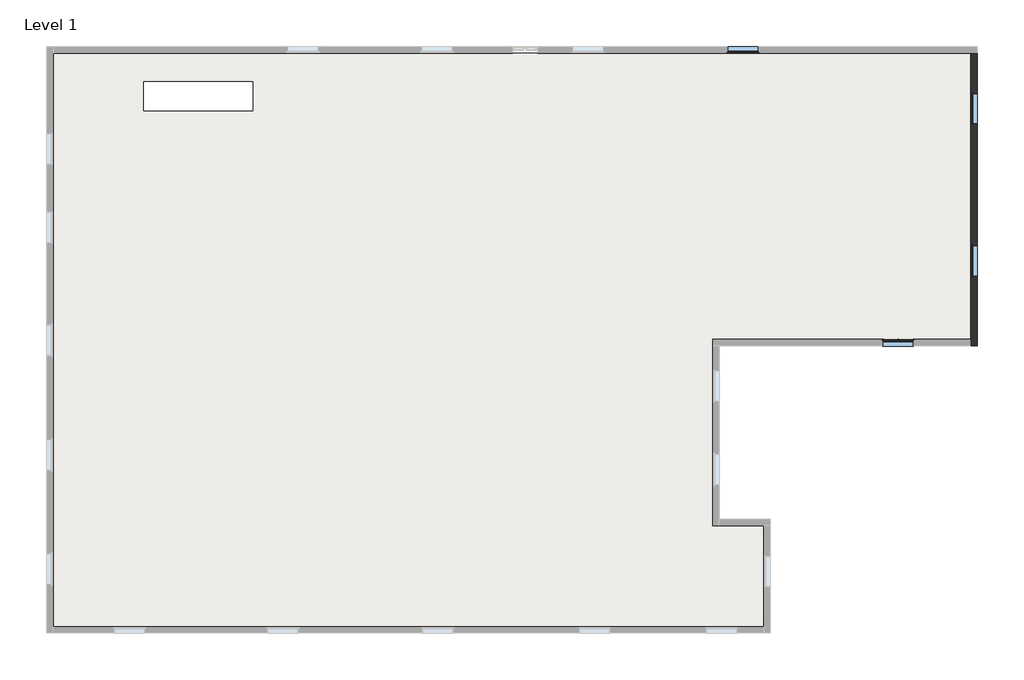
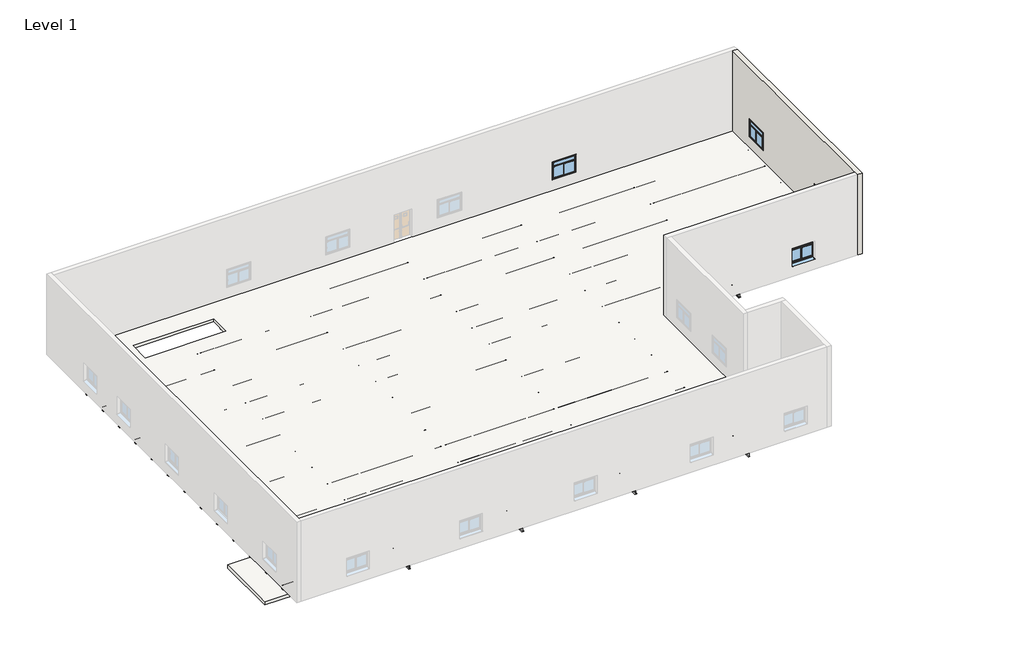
# One storey, part 2 of 2: 90 beams, 4 windows, 2 slabs, 1 wall.
"""IFC4 building model written with IfcOpenShell, lengths in millimetres."""

from ifc_helpers import new_model, si_unit, frame, origin, place, context, project, spatial, polyline, outline, extrude, faceted_brep, transform, mapped, element, save
from components import cb530x32_9_39_fc9b2e57, cb530x32_9_39_b0b7b731, cb530x32_9_39_a7f7f1eb, cb530x32_9_39_18e86786, cb530x32_9_39_dbc4be5c, ipe_ipe300_697b3008, ipe_ipe300_0cf405c3, ipe_ipe300_009aff86, ipe_ipe300_46390dff, ipe_ipe300_53a4a3a1, ipe_ipe300_f8e40e8f, ipe_ipe300_3a199f7d, ipe_ipe300_1a8c8bf1, ipe_ipe300_a2a2df0d, ipe_ipe300_eefa3f7d, ipe_ipe300_38b31347, window_1_60m_x_1_30m_2_3fc02772

model = new_model("IFC4")

# Units and contexts
model_context = context("Model", 3, world=origin())
ifc_project = project(units=[si_unit("LENGTHUNIT", "METRE", prefix="MILLI")], contexts=[model_context])

# Site, building, storey
site = spatial("IfcSite", under=ifc_project)
building = spatial("IfcBuilding", under=site)
storey = spatial("IfcBuildingStorey", under=building, Name="Level 1", Elevation=5500.0)

# Beams
placement = place(None, origin())
cb530x32_9_39_shape = cb530x32_9_39_fc9b2e57(model_context)
element("IfcBeam", 1, ObjectType="Poutre alvéolaire : CB530X32.9/39", at=placement, inside=storey, context=model_context, shape_type="MappedRepresentation", body=[
    mapped(cb530x32_9_39_shape, transform((8000.0, 5067.5, 5025.5), x_axis=(0.0, 1.0, 0.0), y_axis=(-1.0, 0.0, 0.0), z_axis=(0.0, 0.0, 1.0))),
])
element("IfcBeam", 2, ObjectType="Poutre alvéolaire : CB530X32.9/39", at=placement, inside=storey, context=model_context, shape_type="MappedRepresentation", body=[
    mapped(cb530x32_9_39_shape, transform((16000.0, 5067.5, 5025.5), x_axis=(0.0, 1.0, 0.0), y_axis=(-1.0, 0.0, 0.0), z_axis=(0.0, 0.0, 1.0))),
])
element("IfcBeam", 3, ObjectType="Poutre alvéolaire : CB530X32.9/39", at=placement, inside=storey, context=model_context, shape_type="MappedRepresentation", body=[
    mapped(cb530x32_9_39_shape, transform((24000.0, 5067.5, 5025.5), x_axis=(0.0, 1.0, 0.0), y_axis=(-1.0, 0.0, 0.0), z_axis=(0.0, 0.0, 1.0))),
])
element("IfcBeam", 4, ObjectType="Poutre alvéolaire : CB530X32.9/39", at=placement, inside=storey, context=model_context, shape_type="MappedRepresentation", body=[
    mapped(cb530x32_9_39_shape, transform((32000.0, 5067.5, 5025.5), x_axis=(0.0, 1.0, 0.0), y_axis=(-1.0, 0.0, 0.0), z_axis=(0.0, 0.0, 1.0))),
])
cb530x32_9_39_2_shape = cb530x32_9_39_b0b7b731(model_context)
element("IfcBeam", 5, ObjectType="Poutre alvéolaire : CB530X32.9/39", at=placement, inside=storey, context=model_context, shape_type="MappedRepresentation", body=[
    mapped(cb530x32_9_39_2_shape, transform((8000.0, 15000.0, 5025.5), x_axis=(0.0, 1.0, 0.0), y_axis=(-1.0, 0.0, 0.0), z_axis=(0.0, 0.0, 1.0))),
])
element("IfcBeam", 6, ObjectType="Poutre alvéolaire : CB530X32.9/39", at=placement, inside=storey, context=model_context, shape_type="MappedRepresentation", body=[
    mapped(cb530x32_9_39_2_shape, transform((16000.0, 15000.0, 5025.5), x_axis=(0.0, 1.0, 0.0), y_axis=(-1.0, 0.0, 0.0), z_axis=(0.0, 0.0, 1.0))),
])
element("IfcBeam", 7, ObjectType="Poutre alvéolaire : CB530X32.9/39", at=placement, inside=storey, context=model_context, shape_type="MappedRepresentation", body=[
    mapped(cb530x32_9_39_2_shape, transform((24000.0, 15000.0, 5025.5), x_axis=(0.0, 1.0, 0.0), y_axis=(-1.0, 0.0, 0.0), z_axis=(0.0, 0.0, 1.0))),
])
element("IfcBeam", 8, ObjectType="Poutre alvéolaire : CB530X32.9/39", at=placement, inside=storey, context=model_context, shape_type="MappedRepresentation", body=[
    mapped(cb530x32_9_39_2_shape, transform((32000.0, 15000.0, 5025.5), x_axis=(0.0, 1.0, 0.0), y_axis=(-1.0, 0.0, 0.0), z_axis=(0.0, 0.0, 1.0))),
])
cb530x32_9_39_3_shape = cb530x32_9_39_a7f7f1eb(model_context)
element("IfcBeam", 9, ObjectType="Poutre alvéolaire : CB530X32.9/39", at=placement, inside=storey, context=model_context, shape_type="MappedRepresentation", body=[
    mapped(cb530x32_9_39_3_shape, transform((8000.0, 23320.5127887, 5025.5), x_axis=(0.0, 1.0, 0.0), y_axis=(-1.0, 0.0, 0.0), z_axis=(0.0, 0.0, 1.0))),
])
cb530x32_9_39_4_shape = cb530x32_9_39_18e86786(model_context)
element("IfcBeam", 10, ObjectType="Poutre alvéolaire : CB530X32.9/39", at=placement, inside=storey, context=model_context, shape_type="MappedRepresentation", body=[
    mapped(cb530x32_9_39_4_shape, transform((16000.0, 24995.0544554, 5025.5), x_axis=(0.0, 1.0, 0.0), y_axis=(-1.0, 0.0, 0.0), z_axis=(0.0, 0.0, 1.0))),
])
element("IfcBeam", 11, ObjectType="Poutre alvéolaire : CB530X32.9/39", at=placement, inside=storey, context=model_context, shape_type="MappedRepresentation", body=[
    mapped(cb530x32_9_39_4_shape, transform((24000.0, 24995.0544554, 5025.5), x_axis=(0.0, 1.0, 0.0), y_axis=(-1.0, 0.0, 0.0), z_axis=(0.0, 0.0, 1.0))),
])
element("IfcBeam", 12, ObjectType="Poutre alvéolaire : CB530X32.9/39", at=placement, inside=storey, context=model_context, shape_type="MappedRepresentation", body=[
    mapped(cb530x32_9_39_4_shape, transform((32000.0, 24995.0544554, 5025.5), x_axis=(0.0, 1.0, 0.0), y_axis=(-1.0, 0.0, 0.0), z_axis=(0.0, 0.0, 1.0))),
])
element("IfcBeam", 13, ObjectType="Poutre alvéolaire : CB530X32.9/39", at=placement, inside=storey, context=model_context, shape_type="MappedRepresentation", body=[
    mapped(cb530x32_9_39_4_shape, transform((40000.0, 24995.0544554, 5025.5), x_axis=(0.0, 1.0, 0.0), y_axis=(-1.0, 0.0, 0.0), z_axis=(0.0, 0.0, 1.0))),
])
cb530x32_9_39_5_shape = cb530x32_9_39_dbc4be5c(model_context)
element("IfcBeam", 14, ObjectType="Poutre alvéolaire : CB530X32.9/39", at=placement, inside=storey, context=model_context, shape_type="MappedRepresentation", body=[
    mapped(cb530x32_9_39_5_shape, transform((40000.0, 17505.0, 5025.5), x_axis=(0.0, 1.0, 0.0), y_axis=(-1.0, 0.0, 0.0), z_axis=(0.0, 0.0, 1.0))),
])
ipe_ipe300_shape = ipe_ipe300_697b3008(model_context)
element("IfcBeam", 15, ObjectType="IPE : IPE300", at=placement, inside=storey, context=model_context, shape_type="MappedRepresentation", body=[
    mapped(ipe_ipe300_shape, transform((4005.0, 10000.0, 5140.0), x_axis=(-1.0, 0.0, 0.0), y_axis=(0.0, -1.0, 0.0), z_axis=(0.0, 0.0, 1.0))),
])
element("IfcBeam", 16, ObjectType="IPE : IPE300", at=placement, inside=storey, context=model_context, shape_type="MappedRepresentation", body=[
    mapped(ipe_ipe300_shape, transform((4005.0, 20000.0, 5140.0), x_axis=(-1.0, 0.0, 0.0), y_axis=(0.0, -1.0, 0.0), z_axis=(0.0, 0.0, 1.0))),
])
ipe_ipe300_2_shape = ipe_ipe300_0cf405c3(model_context)
element("IfcBeam", 17, ObjectType="IPE : IPE300", at=placement, inside=storey, context=model_context, shape_type="MappedRepresentation", body=[
    mapped(ipe_ipe300_2_shape, transform((4005.0, 12000.0, 5140.0), x_axis=(-1.0, 0.0, 0.0), y_axis=(0.0, -1.0, 0.0), z_axis=(0.0, 0.0, 1.0))),
])
element("IfcBeam", 18, ObjectType="IPE : IPE300", at=placement, inside=storey, context=model_context, shape_type="MappedRepresentation", body=[
    mapped(ipe_ipe300_2_shape, transform((4005.0, 14000.0, 5140.0), x_axis=(-1.0, 0.0, 0.0), y_axis=(0.0, -1.0, 0.0), z_axis=(0.0, 0.0, 1.0))),
])
element("IfcBeam", 19, ObjectType="IPE : IPE300", at=placement, inside=storey, context=model_context, shape_type="MappedRepresentation", body=[
    mapped(ipe_ipe300_2_shape, transform((4005.0, 16000.0, 5140.0), x_axis=(-1.0, 0.0, 0.0), y_axis=(0.0, -1.0, 0.0), z_axis=(0.0, 0.0, 1.0))),
])
element("IfcBeam", 20, ObjectType="IPE : IPE300", at=placement, inside=storey, context=model_context, shape_type="MappedRepresentation", body=[
    mapped(ipe_ipe300_2_shape, transform((4005.0, 18000.0, 5140.0), x_axis=(-1.0, 0.0, 0.0), y_axis=(0.0, -1.0, 0.0), z_axis=(0.0, 0.0, 1.0))),
])
element("IfcBeam", 21, ObjectType="IPE : IPE300", at=placement, inside=storey, context=model_context, shape_type="MappedRepresentation", body=[
    mapped(ipe_ipe300_2_shape, transform((4005.0, 22000.0, 5140.0), x_axis=(-1.0, 0.0, 0.0), y_axis=(0.0, -1.0, 0.0), z_axis=(0.0, 0.0, 1.0))),
])
element("IfcBeam", 22, ObjectType="IPE : IPE300", at=placement, inside=storey, context=model_context, shape_type="MappedRepresentation", body=[
    mapped(ipe_ipe300_2_shape, transform((4005.0, 24000.0, 5140.0), x_axis=(-1.0, 0.0, 0.0), y_axis=(0.0, -1.0, 0.0), z_axis=(0.0, 0.0, 1.0))),
])
element("IfcBeam", 23, ObjectType="IPE : IPE300", at=placement, inside=storey, context=model_context, shape_type="MappedRepresentation", body=[
    mapped(ipe_ipe300_2_shape, transform((4005.0, 26000.0, 5140.0), x_axis=(-1.0, 0.0, 0.0), y_axis=(0.0, -1.0, 0.0), z_axis=(0.0, 0.0, 1.0))),
])
element("IfcBeam", 24, ObjectType="IPE : IPE300", at=placement, inside=storey, context=model_context, shape_type="MappedRepresentation", body=[
    mapped(ipe_ipe300_2_shape, transform((4005.0, 8000.0, 5140.0), x_axis=(-1.0, 0.0, 0.0), y_axis=(0.0, -1.0, 0.0), z_axis=(0.0, 0.0, 1.0))),
])
element("IfcBeam", 25, ObjectType="IPE : IPE300", at=placement, inside=storey, context=model_context, shape_type="MappedRepresentation", body=[
    mapped(ipe_ipe300_2_shape, transform((4005.0, 6000.0, 5140.0), x_axis=(-1.0, 0.0, 0.0), y_axis=(0.0, -1.0, 0.0), z_axis=(0.0, 0.0, 1.0))),
])
element("IfcBeam", 26, ObjectType="IPE : IPE300", at=placement, inside=storey, context=model_context, shape_type="MappedRepresentation", body=[
    mapped(ipe_ipe300_2_shape, transform((4005.0, 4000.0, 5140.0), x_axis=(-1.0, 0.0, 0.0), y_axis=(0.0, -1.0, 0.0), z_axis=(0.0, 0.0, 1.0))),
])
element("IfcBeam", 27, ObjectType="IPE : IPE300", at=placement, inside=storey, context=model_context, shape_type="MappedRepresentation", body=[
    mapped(ipe_ipe300_2_shape, transform((4005.0, 2000.0, 5140.0), x_axis=(-1.0, 0.0, 0.0), y_axis=(0.0, -1.0, 0.0), z_axis=(0.0, 0.0, 1.0))),
])
ipe_ipe300_3_shape = ipe_ipe300_009aff86(model_context)
element("IfcBeam", 28, ObjectType="IPE : IPE300", at=placement, inside=storey, context=model_context, shape_type="MappedRepresentation", body=[
    mapped(ipe_ipe300_3_shape, transform((12005.0, 10000.0, 5140.0), x_axis=(-1.0, 0.0, 0.0), y_axis=(0.0, -1.0, 0.0), z_axis=(0.0, 0.0, 1.0))),
])
element("IfcBeam", 29, ObjectType="IPE : IPE300", at=placement, inside=storey, context=model_context, shape_type="MappedRepresentation", body=[
    mapped(ipe_ipe300_3_shape, transform((12005.0, 20000.0, 5140.0), x_axis=(-1.0, 0.0, 0.0), y_axis=(0.0, -1.0, 0.0), z_axis=(0.0, 0.0, 1.0))),
])
element("IfcBeam", 30, ObjectType="IPE : IPE300", at=placement, inside=storey, context=model_context, shape_type="MappedRepresentation", body=[
    mapped(ipe_ipe300_3_shape, transform((20005.0, 10000.0, 5140.0), x_axis=(-1.0, 0.0, 0.0), y_axis=(0.0, -1.0, 0.0), z_axis=(0.0, 0.0, 1.0))),
])
element("IfcBeam", 31, ObjectType="IPE : IPE300", at=placement, inside=storey, context=model_context, shape_type="MappedRepresentation", body=[
    mapped(ipe_ipe300_3_shape, transform((20005.0, 20000.0, 5140.0), x_axis=(-1.0, 0.0, 0.0), y_axis=(0.0, -1.0, 0.0), z_axis=(0.0, 0.0, 1.0))),
])
element("IfcBeam", 32, ObjectType="IPE : IPE300", at=placement, inside=storey, context=model_context, shape_type="MappedRepresentation", body=[
    mapped(ipe_ipe300_3_shape, transform((28005.0, 10000.0, 5140.0), x_axis=(-1.0, 0.0, 0.0), y_axis=(0.0, -1.0, 0.0), z_axis=(0.0, 0.0, 1.0))),
])
element("IfcBeam", 33, ObjectType="IPE : IPE300", at=placement, inside=storey, context=model_context, shape_type="MappedRepresentation", body=[
    mapped(ipe_ipe300_3_shape, transform((28005.0, 20000.0, 5140.0), x_axis=(-1.0, 0.0, 0.0), y_axis=(0.0, -1.0, 0.0), z_axis=(0.0, 0.0, 1.0))),
])
element("IfcBeam", 34, ObjectType="IPE : IPE300", at=placement, inside=storey, context=model_context, shape_type="MappedRepresentation", body=[
    mapped(ipe_ipe300_3_shape, transform((36005.0, 20000.0, 5140.0), x_axis=(-1.0, 0.0, 0.0), y_axis=(0.0, -1.0, 0.0), z_axis=(0.0, 0.0, 1.0))),
])
ipe_ipe300_4_shape = ipe_ipe300_46390dff(model_context)
element("IfcBeam", 35, ObjectType="IPE : IPE300", at=placement, inside=storey, context=model_context, shape_type="MappedRepresentation", body=[
    mapped(ipe_ipe300_4_shape, transform((12005.0, 12000.0, 5140.0), x_axis=(-1.0, 0.0, 0.0), y_axis=(0.0, -1.0, 0.0), z_axis=(0.0, 0.0, 1.0))),
])
element("IfcBeam", 36, ObjectType="IPE : IPE300", at=placement, inside=storey, context=model_context, shape_type="MappedRepresentation", body=[
    mapped(ipe_ipe300_4_shape, transform((12005.0, 14000.0, 5140.0), x_axis=(-1.0, 0.0, 0.0), y_axis=(0.0, -1.0, 0.0), z_axis=(0.0, 0.0, 1.0))),
])
element("IfcBeam", 37, ObjectType="IPE : IPE300", at=placement, inside=storey, context=model_context, shape_type="MappedRepresentation", body=[
    mapped(ipe_ipe300_4_shape, transform((12005.0, 16000.0, 5140.0), x_axis=(-1.0, 0.0, 0.0), y_axis=(0.0, -1.0, 0.0), z_axis=(0.0, 0.0, 1.0))),
])
element("IfcBeam", 38, ObjectType="IPE : IPE300", at=placement, inside=storey, context=model_context, shape_type="MappedRepresentation", body=[
    mapped(ipe_ipe300_4_shape, transform((12005.0, 18000.0, 5140.0), x_axis=(-1.0, 0.0, 0.0), y_axis=(0.0, -1.0, 0.0), z_axis=(0.0, 0.0, 1.0))),
])
element("IfcBeam", 39, ObjectType="IPE : IPE300", at=placement, inside=storey, context=model_context, shape_type="MappedRepresentation", body=[
    mapped(ipe_ipe300_4_shape, transform((12005.0, 22000.0, 5140.0), x_axis=(-1.0, 0.0, 0.0), y_axis=(0.0, -1.0, 0.0), z_axis=(0.0, 0.0, 1.0))),
])
element("IfcBeam", 40, ObjectType="IPE : IPE300", at=placement, inside=storey, context=model_context, shape_type="MappedRepresentation", body=[
    mapped(ipe_ipe300_4_shape, transform((12005.0, 24000.0, 5140.0), x_axis=(-1.0, 0.0, 0.0), y_axis=(0.0, -1.0, 0.0), z_axis=(0.0, 0.0, 1.0))),
])
element("IfcBeam", 41, ObjectType="IPE : IPE300", at=placement, inside=storey, context=model_context, shape_type="MappedRepresentation", body=[
    mapped(ipe_ipe300_4_shape, transform((12005.0, 26000.0, 5140.0), x_axis=(-1.0, 0.0, 0.0), y_axis=(0.0, -1.0, 0.0), z_axis=(0.0, 0.0, 1.0))),
])
element("IfcBeam", 42, ObjectType="IPE : IPE300", at=placement, inside=storey, context=model_context, shape_type="MappedRepresentation", body=[
    mapped(ipe_ipe300_4_shape, transform((12005.0, 8000.0, 5140.0), x_axis=(-1.0, 0.0, 0.0), y_axis=(0.0, -1.0, 0.0), z_axis=(0.0, 0.0, 1.0))),
])
element("IfcBeam", 43, ObjectType="IPE : IPE300", at=placement, inside=storey, context=model_context, shape_type="MappedRepresentation", body=[
    mapped(ipe_ipe300_4_shape, transform((12005.0, 6000.0, 5140.0), x_axis=(-1.0, 0.0, 0.0), y_axis=(0.0, -1.0, 0.0), z_axis=(0.0, 0.0, 1.0))),
])
element("IfcBeam", 44, ObjectType="IPE : IPE300", at=placement, inside=storey, context=model_context, shape_type="MappedRepresentation", body=[
    mapped(ipe_ipe300_4_shape, transform((12005.0, 4000.0, 5140.0), x_axis=(-1.0, 0.0, 0.0), y_axis=(0.0, -1.0, 0.0), z_axis=(0.0, 0.0, 1.0))),
])
element("IfcBeam", 45, ObjectType="IPE : IPE300", at=placement, inside=storey, context=model_context, shape_type="MappedRepresentation", body=[
    mapped(ipe_ipe300_4_shape, transform((12005.0, 2000.0, 5140.0), x_axis=(-1.0, 0.0, 0.0), y_axis=(0.0, -1.0, 0.0), z_axis=(0.0, 0.0, 1.0))),
])
element("IfcBeam", 46, ObjectType="IPE : IPE300", at=placement, inside=storey, context=model_context, shape_type="MappedRepresentation", body=[
    mapped(ipe_ipe300_4_shape, transform((20005.0, 12000.0, 5140.0), x_axis=(-1.0, 0.0, 0.0), y_axis=(0.0, -1.0, 0.0), z_axis=(0.0, 0.0, 1.0))),
])
element("IfcBeam", 47, ObjectType="IPE : IPE300", at=placement, inside=storey, context=model_context, shape_type="MappedRepresentation", body=[
    mapped(ipe_ipe300_4_shape, transform((20005.0, 14000.0, 5140.0), x_axis=(-1.0, 0.0, 0.0), y_axis=(0.0, -1.0, 0.0), z_axis=(0.0, 0.0, 1.0))),
])
element("IfcBeam", 48, ObjectType="IPE : IPE300", at=placement, inside=storey, context=model_context, shape_type="MappedRepresentation", body=[
    mapped(ipe_ipe300_4_shape, transform((20005.0, 16000.0, 5140.0), x_axis=(-1.0, 0.0, 0.0), y_axis=(0.0, -1.0, 0.0), z_axis=(0.0, 0.0, 1.0))),
])
element("IfcBeam", 49, ObjectType="IPE : IPE300", at=placement, inside=storey, context=model_context, shape_type="MappedRepresentation", body=[
    mapped(ipe_ipe300_4_shape, transform((20005.0, 18000.0, 5140.0), x_axis=(-1.0, 0.0, 0.0), y_axis=(0.0, -1.0, 0.0), z_axis=(0.0, 0.0, 1.0))),
])
element("IfcBeam", 50, ObjectType="IPE : IPE300", at=placement, inside=storey, context=model_context, shape_type="MappedRepresentation", body=[
    mapped(ipe_ipe300_4_shape, transform((20005.0, 22000.0, 5140.0), x_axis=(-1.0, 0.0, 0.0), y_axis=(0.0, -1.0, 0.0), z_axis=(0.0, 0.0, 1.0))),
])
element("IfcBeam", 51, ObjectType="IPE : IPE300", at=placement, inside=storey, context=model_context, shape_type="MappedRepresentation", body=[
    mapped(ipe_ipe300_4_shape, transform((20005.0, 24000.0, 5140.0), x_axis=(-1.0, 0.0, 0.0), y_axis=(0.0, -1.0, 0.0), z_axis=(0.0, 0.0, 1.0))),
])
element("IfcBeam", 52, ObjectType="IPE : IPE300", at=placement, inside=storey, context=model_context, shape_type="MappedRepresentation", body=[
    mapped(ipe_ipe300_4_shape, transform((20005.0, 26000.0, 5140.0), x_axis=(-1.0, 0.0, 0.0), y_axis=(0.0, -1.0, 0.0), z_axis=(0.0, 0.0, 1.0))),
])
element("IfcBeam", 53, ObjectType="IPE : IPE300", at=placement, inside=storey, context=model_context, shape_type="MappedRepresentation", body=[
    mapped(ipe_ipe300_4_shape, transform((20005.0, 8000.0, 5140.0), x_axis=(-1.0, 0.0, 0.0), y_axis=(0.0, -1.0, 0.0), z_axis=(0.0, 0.0, 1.0))),
])
element("IfcBeam", 54, ObjectType="IPE : IPE300", at=placement, inside=storey, context=model_context, shape_type="MappedRepresentation", body=[
    mapped(ipe_ipe300_4_shape, transform((20005.0, 6000.0, 5140.0), x_axis=(-1.0, 0.0, 0.0), y_axis=(0.0, -1.0, 0.0), z_axis=(0.0, 0.0, 1.0))),
])
element("IfcBeam", 55, ObjectType="IPE : IPE300", at=placement, inside=storey, context=model_context, shape_type="MappedRepresentation", body=[
    mapped(ipe_ipe300_4_shape, transform((20005.0, 4000.0, 5140.0), x_axis=(-1.0, 0.0, 0.0), y_axis=(0.0, -1.0, 0.0), z_axis=(0.0, 0.0, 1.0))),
])
element("IfcBeam", 56, ObjectType="IPE : IPE300", at=placement, inside=storey, context=model_context, shape_type="MappedRepresentation", body=[
    mapped(ipe_ipe300_4_shape, transform((20005.0, 2000.0, 5140.0), x_axis=(-1.0, 0.0, 0.0), y_axis=(0.0, -1.0, 0.0), z_axis=(0.0, 0.0, 1.0))),
])
element("IfcBeam", 57, ObjectType="IPE : IPE300", at=placement, inside=storey, context=model_context, shape_type="MappedRepresentation", body=[
    mapped(ipe_ipe300_4_shape, transform((28005.0, 12000.0, 5140.0), x_axis=(-1.0, 0.0, 0.0), y_axis=(0.0, -1.0, 0.0), z_axis=(0.0, 0.0, 1.0))),
])
element("IfcBeam", 58, ObjectType="IPE : IPE300", at=placement, inside=storey, context=model_context, shape_type="MappedRepresentation", body=[
    mapped(ipe_ipe300_4_shape, transform((28005.0, 14000.0, 5140.0), x_axis=(-1.0, 0.0, 0.0), y_axis=(0.0, -1.0, 0.0), z_axis=(0.0, 0.0, 1.0))),
])
element("IfcBeam", 59, ObjectType="IPE : IPE300", at=placement, inside=storey, context=model_context, shape_type="MappedRepresentation", body=[
    mapped(ipe_ipe300_4_shape, transform((28005.0, 16000.0, 5140.0), x_axis=(-1.0, 0.0, 0.0), y_axis=(0.0, -1.0, 0.0), z_axis=(0.0, 0.0, 1.0))),
])
element("IfcBeam", 60, ObjectType="IPE : IPE300", at=placement, inside=storey, context=model_context, shape_type="MappedRepresentation", body=[
    mapped(ipe_ipe300_4_shape, transform((28005.0, 18000.0, 5140.0), x_axis=(-1.0, 0.0, 0.0), y_axis=(0.0, -1.0, 0.0), z_axis=(0.0, 0.0, 1.0))),
])
element("IfcBeam", 61, ObjectType="IPE : IPE300", at=placement, inside=storey, context=model_context, shape_type="MappedRepresentation", body=[
    mapped(ipe_ipe300_4_shape, transform((28005.0, 22000.0, 5140.0), x_axis=(-1.0, 0.0, 0.0), y_axis=(0.0, -1.0, 0.0), z_axis=(0.0, 0.0, 1.0))),
])
element("IfcBeam", 62, ObjectType="IPE : IPE300", at=placement, inside=storey, context=model_context, shape_type="MappedRepresentation", body=[
    mapped(ipe_ipe300_4_shape, transform((28005.0, 24000.0, 5140.0), x_axis=(-1.0, 0.0, 0.0), y_axis=(0.0, -1.0, 0.0), z_axis=(0.0, 0.0, 1.0))),
])
element("IfcBeam", 63, ObjectType="IPE : IPE300", at=placement, inside=storey, context=model_context, shape_type="MappedRepresentation", body=[
    mapped(ipe_ipe300_4_shape, transform((28005.0, 26000.0, 5140.0), x_axis=(-1.0, 0.0, 0.0), y_axis=(0.0, -1.0, 0.0), z_axis=(0.0, 0.0, 1.0))),
])
element("IfcBeam", 64, ObjectType="IPE : IPE300", at=placement, inside=storey, context=model_context, shape_type="MappedRepresentation", body=[
    mapped(ipe_ipe300_4_shape, transform((28005.0, 8000.0, 5140.0), x_axis=(-1.0, 0.0, 0.0), y_axis=(0.0, -1.0, 0.0), z_axis=(0.0, 0.0, 1.0))),
])
element("IfcBeam", 65, ObjectType="IPE : IPE300", at=placement, inside=storey, context=model_context, shape_type="MappedRepresentation", body=[
    mapped(ipe_ipe300_4_shape, transform((28005.0, 6000.0, 5140.0), x_axis=(-1.0, 0.0, 0.0), y_axis=(0.0, -1.0, 0.0), z_axis=(0.0, 0.0, 1.0))),
])
element("IfcBeam", 66, ObjectType="IPE : IPE300", at=placement, inside=storey, context=model_context, shape_type="MappedRepresentation", body=[
    mapped(ipe_ipe300_4_shape, transform((28005.0, 4000.0, 5140.0), x_axis=(-1.0, 0.0, 0.0), y_axis=(0.0, -1.0, 0.0), z_axis=(0.0, 0.0, 1.0))),
])
element("IfcBeam", 67, ObjectType="IPE : IPE300", at=placement, inside=storey, context=model_context, shape_type="MappedRepresentation", body=[
    mapped(ipe_ipe300_4_shape, transform((28005.0, 2000.0, 5140.0), x_axis=(-1.0, 0.0, 0.0), y_axis=(0.0, -1.0, 0.0), z_axis=(0.0, 0.0, 1.0))),
])
element("IfcBeam", 68, ObjectType="IPE : IPE300", at=placement, inside=storey, context=model_context, shape_type="MappedRepresentation", body=[
    mapped(ipe_ipe300_4_shape, transform((36005.0, 16000.0, 5140.0), x_axis=(-1.0, 0.0, 0.0), y_axis=(0.0, -1.0, 0.0), z_axis=(0.0, 0.0, 1.0))),
])
element("IfcBeam", 69, ObjectType="IPE : IPE300", at=placement, inside=storey, context=model_context, shape_type="MappedRepresentation", body=[
    mapped(ipe_ipe300_4_shape, transform((36005.0, 18000.0, 5140.0), x_axis=(-1.0, 0.0, 0.0), y_axis=(0.0, -1.0, 0.0), z_axis=(0.0, 0.0, 1.0))),
])
element("IfcBeam", 70, ObjectType="IPE : IPE300", at=placement, inside=storey, context=model_context, shape_type="MappedRepresentation", body=[
    mapped(ipe_ipe300_4_shape, transform((36005.0, 22000.0, 5140.0), x_axis=(-1.0, 0.0, 0.0), y_axis=(0.0, -1.0, 0.0), z_axis=(0.0, 0.0, 1.0))),
])
element("IfcBeam", 71, ObjectType="IPE : IPE300", at=placement, inside=storey, context=model_context, shape_type="MappedRepresentation", body=[
    mapped(ipe_ipe300_4_shape, transform((36005.0, 24000.0, 5140.0), x_axis=(-1.0, 0.0, 0.0), y_axis=(0.0, -1.0, 0.0), z_axis=(0.0, 0.0, 1.0))),
])
element("IfcBeam", 72, ObjectType="IPE : IPE300", at=placement, inside=storey, context=model_context, shape_type="MappedRepresentation", body=[
    mapped(ipe_ipe300_4_shape, transform((36005.0, 26000.0, 5140.0), x_axis=(-1.0, 0.0, 0.0), y_axis=(0.0, -1.0, 0.0), z_axis=(0.0, 0.0, 1.0))),
])
element("IfcBeam", 73, ObjectType="IPE : IPE300", at=placement, inside=storey, context=model_context, shape_type="MappedRepresentation", body=[
    mapped(ipe_ipe300_4_shape, transform((20005.0, 28000.0, 5140.0), x_axis=(-1.0, 0.0, 0.0), y_axis=(0.0, -1.0, 0.0), z_axis=(0.0, 0.0, 1.0))),
])
element("IfcBeam", 74, ObjectType="IPE : IPE300", at=placement, inside=storey, context=model_context, shape_type="MappedRepresentation", body=[
    mapped(ipe_ipe300_4_shape, transform((28005.0, 28000.0, 5140.0), x_axis=(-1.0, 0.0, 0.0), y_axis=(0.0, -1.0, 0.0), z_axis=(0.0, 0.0, 1.0))),
])
element("IfcBeam", 75, ObjectType="IPE : IPE300", at=placement, inside=storey, context=model_context, shape_type="MappedRepresentation", body=[
    mapped(ipe_ipe300_4_shape, transform((36005.0, 28000.0, 5140.0), x_axis=(-1.0, 0.0, 0.0), y_axis=(0.0, -1.0, 0.0), z_axis=(0.0, 0.0, 1.0))),
])
ipe_ipe300_5_shape = ipe_ipe300_53a4a3a1(model_context)
element("IfcBeam", 76, ObjectType="IPE : IPE300", at=placement, inside=storey, context=model_context, shape_type="MappedRepresentation", body=[
    mapped(ipe_ipe300_5_shape, transform((44005.0, 20000.0, 5140.0), x_axis=(-1.0, 0.0, 0.0), y_axis=(0.0, -1.0, 0.0), z_axis=(0.0, 0.0, 1.0))),
])
ipe_ipe300_6_shape = ipe_ipe300_f8e40e8f(model_context)
element("IfcBeam", 77, ObjectType="IPE : IPE300", at=placement, inside=storey, context=model_context, shape_type="MappedRepresentation", body=[
    mapped(ipe_ipe300_6_shape, transform((44005.0, 16000.0, 5140.0), x_axis=(-1.0, 0.0, 0.0), y_axis=(0.0, -1.0, 0.0), z_axis=(0.0, 0.0, 1.0))),
])
element("IfcBeam", 78, ObjectType="IPE : IPE300", at=placement, inside=storey, context=model_context, shape_type="MappedRepresentation", body=[
    mapped(ipe_ipe300_6_shape, transform((44005.0, 18000.0, 5140.0), x_axis=(-1.0, 0.0, 0.0), y_axis=(0.0, -1.0, 0.0), z_axis=(0.0, 0.0, 1.0))),
])
element("IfcBeam", 79, ObjectType="IPE : IPE300", at=placement, inside=storey, context=model_context, shape_type="MappedRepresentation", body=[
    mapped(ipe_ipe300_6_shape, transform((44005.0, 22000.0, 5140.0), x_axis=(-1.0, 0.0, 0.0), y_axis=(0.0, -1.0, 0.0), z_axis=(0.0, 0.0, 1.0))),
])
element("IfcBeam", 80, ObjectType="IPE : IPE300", at=placement, inside=storey, context=model_context, shape_type="MappedRepresentation", body=[
    mapped(ipe_ipe300_6_shape, transform((44005.0, 24000.0, 5140.0), x_axis=(-1.0, 0.0, 0.0), y_axis=(0.0, -1.0, 0.0), z_axis=(0.0, 0.0, 1.0))),
])
element("IfcBeam", 81, ObjectType="IPE : IPE300", at=placement, inside=storey, context=model_context, shape_type="MappedRepresentation", body=[
    mapped(ipe_ipe300_6_shape, transform((44005.0, 26000.0, 5140.0), x_axis=(-1.0, 0.0, 0.0), y_axis=(0.0, -1.0, 0.0), z_axis=(0.0, 0.0, 1.0))),
])
element("IfcBeam", 82, ObjectType="IPE : IPE300", at=placement, inside=storey, context=model_context, shape_type="MappedRepresentation", body=[
    mapped(ipe_ipe300_6_shape, transform((44005.0, 28000.0, 5140.0), x_axis=(-1.0, 0.0, 0.0), y_axis=(0.0, -1.0, 0.0), z_axis=(0.0, 0.0, 1.0))),
])
ipe_ipe300_7_shape = ipe_ipe300_3a199f7d(model_context)
element("IfcBeam", 83, ObjectType="IPE : IPE300", at=placement, inside=storey, context=model_context, shape_type="MappedRepresentation", body=[
    mapped(ipe_ipe300_7_shape, transform((34589.7414983, 4000.0, 5140.0), x_axis=(-1.0, 0.0, 0.0), y_axis=(0.0, -1.0, 0.0), z_axis=(0.0, 0.0, 1.0))),
])
element("IfcBeam", 84, ObjectType="IPE : IPE300", at=placement, inside=storey, context=model_context, shape_type="MappedRepresentation", body=[
    mapped(ipe_ipe300_7_shape, transform((34589.7414983, 2000.0, 5140.0), x_axis=(-1.0, 0.0, 0.0), y_axis=(0.0, -1.0, 0.0), z_axis=(0.0, 0.0, 1.0))),
])
ipe_ipe300_8_shape = ipe_ipe300_1a8c8bf1(model_context)
element("IfcBeam", 85, ObjectType="IPE : IPE300", at=placement, inside=storey, context=model_context, shape_type="MappedRepresentation", body=[
    mapped(ipe_ipe300_8_shape, transform((33250.0, 8000.0, 5140.0), x_axis=(-1.0, 0.0, 0.0), y_axis=(0.0, -1.0, 0.0), z_axis=(0.0, 0.0, 1.0))),
])
element("IfcBeam", 86, ObjectType="IPE : IPE300", at=placement, inside=storey, context=model_context, shape_type="MappedRepresentation", body=[
    mapped(ipe_ipe300_8_shape, transform((33250.0, 6000.0, 5140.0), x_axis=(-1.0, 0.0, 0.0), y_axis=(0.0, -1.0, 0.0), z_axis=(0.0, 0.0, 1.0))),
])
ipe_ipe300_9_shape = ipe_ipe300_a2a2df0d(model_context)
element("IfcBeam", 87, ObjectType="IPE : IPE300", at=placement, inside=storey, context=model_context, shape_type="MappedRepresentation", body=[
    mapped(ipe_ipe300_9_shape, transform((33250.0, 10000.0, 5140.0), x_axis=(-1.0, 0.0, 0.0), y_axis=(0.0, -1.0, 0.0), z_axis=(0.0, 0.0, 1.0))),
])
ipe_ipe300_10_shape = ipe_ipe300_eefa3f7d(model_context)
element("IfcBeam", 88, ObjectType="IPE : IPE300", at=placement, inside=storey, context=model_context, shape_type="MappedRepresentation", body=[
    mapped(ipe_ipe300_10_shape, transform((33245.0, 12000.0, 5140.0), x_axis=(-1.0, 0.0, 0.0), y_axis=(0.0, -1.0, 0.0), z_axis=(0.0, 0.0, 1.0))),
])
element("IfcBeam", 89, ObjectType="IPE : IPE300", at=placement, inside=storey, context=model_context, shape_type="MappedRepresentation", body=[
    mapped(ipe_ipe300_10_shape, transform((33245.0, 14000.0, 5140.0), x_axis=(-1.0, 0.0, 0.0), y_axis=(0.0, -1.0, 0.0), z_axis=(0.0, 0.0, 1.0))),
])
ipe_ipe300_11_shape = ipe_ipe300_38b31347(model_context)
element("IfcBeam", 90, ObjectType="IPE : IPE300", at=placement, inside=storey, context=model_context, shape_type="MappedRepresentation", body=[
    mapped(ipe_ipe300_11_shape, transform((13320.0, 28000.0, 5140.0), x_axis=(-1.0, 0.0, 0.0), y_axis=(0.0, -1.0, 0.0), z_axis=(0.0, 0.0, 1.0))),
])

# Slabs
element("IfcSlab", 91, ObjectType="Béton 160 mm avec platelage métallique 50 mm", at=placement, inside=storey, context=model_context, shape_type="SweptSolid", body=[
    extrude(outline(polyline([(37169.4829967, 10.0), (10.0, 10.0), (10.0, 29990.0), (47990.0, 29990.0), (47990.0, 15010.0), (34498.36989, 15010.0), (34498.36989, 5307.0803084), (37169.4829967, 5307.0803084), (37169.4829967, 10.0)]), holes=[polyline([(10439.1961953, 28480.0), (4749.7104064, 28480.0), (4749.7104064, 26965.9166667), (10439.1961953, 26965.9166667), (10439.1961953, 28480.0)])]), frame((0.0, 0.0, 5290.0), z_axis=(0.0, 0.0, 1.0), x_axis=(1.0, 0.0, 0.0)), (0.0, 0.0, 1.0), 210.0),
])
element("IfcSlab", 92, ObjectType="Dalle en béton - 250 mm", at=placement, inside=storey, context=model_context, shape_type="SweptSolid", body=[
    extrude(outline(polyline([(3197.4834941, 4163.0018852), (10.0, 4163.0018852), (10.0, 8693.3677657), (3197.4834941, 8693.3677657), (3197.4834941, 4163.0018852)])), frame((0.0, 0.0, 2500.0), z_axis=(0.0, 0.0, 1.0), x_axis=(1.0, 0.0, 0.0)), (0.0, 0.0, 1.0), 250.0),
])

# Wall
element("IfcWall", 93, ObjectType="Ext. Parpaing 20 + Isolant ext&int", at=placement, inside=storey, context=model_context, shape_type="Brep", body=[
    faceted_brep([(47980.0, 29980.0, 5500.0), (47980.0, 15020.0, 5500.0), (47980.0, 14690.0, 5500.0), (47980.0, 14690.0, 11500.0), (47980.0, 15020.0, 11500.0), (47980.0, 29980.0, 11500.0), (47980.0, 18270.0, 6300.0), (47980.0, 19970.0, 6300.0), (47980.0, 19970.0, 7650.0), (47980.0, 18270.0, 7650.0), (47980.0, 26230.0, 6300.0), (47980.0, 27930.0, 6300.0), (47980.0, 27930.0, 7650.0), (47980.0, 26230.0, 7650.0), (48310.0, 29980.0, 5500.0), (48310.0, 29980.0, 11500.0), (48310.0, 14690.0, 11500.0), (48310.0, 14690.0, 5500.0), (48310.0, 19920.0, 7600.0), (48310.0, 19920.0, 6258.7239412), (48310.0, 18320.0, 6258.7239412), (48310.0, 18320.0, 7600.0), (48310.0, 27880.0, 7600.0), (48310.0, 27880.0, 6258.7239412), (48310.0, 26280.0, 6258.7239412), (48310.0, 26280.0, 7600.0), (48060.0, 19920.0, 6300.0), (48060.0, 19920.0, 6285.0), (48080.0, 19920.0, 7600.0), (48080.0, 19920.0, 6300.0), (48060.0, 18320.0, 6285.0), (48060.0, 18320.0, 6300.0), (48080.0, 18320.0, 6300.0), (48080.0, 18320.0, 7600.0), (48080.0, 19930.0, 6300.0), (48050.0, 19930.0, 6300.0), (48050.0, 19970.0, 6300.0), (48050.0, 18270.0, 6300.0), (48050.0, 18310.0, 6300.0), (48080.0, 18310.0, 6300.0), (48050.0, 19970.0, 7650.0), (48050.0, 19930.0, 7610.0), (48050.0, 18310.0, 7610.0), (48050.0, 18270.0, 7650.0), (48080.0, 19930.0, 7610.0), (48080.0, 18310.0, 7610.0), (48060.0, 27880.0, 6300.0), (48060.0, 27880.0, 6285.0), (48080.0, 27880.0, 7600.0), (48080.0, 27880.0, 6300.0), (48060.0, 26280.0, 6285.0), (48060.0, 26280.0, 6300.0), (48080.0, 26280.0, 6300.0), (48080.0, 26280.0, 7600.0), (48080.0, 27890.0, 6300.0), (48050.0, 27890.0, 6300.0), (48050.0, 27930.0, 6300.0), (48050.0, 26230.0, 6300.0), (48050.0, 26270.0, 6300.0), (48080.0, 26270.0, 6300.0), (48050.0, 27930.0, 7650.0), (48050.0, 27890.0, 7610.0), (48050.0, 26270.0, 7610.0), (48050.0, 26230.0, 7650.0), (48080.0, 27890.0, 7610.0), (48080.0, 26270.0, 7610.0)], [[[0, 1, 2, 3, 4, 5], [6, 7, 8, 9], [10, 11, 12, 13]], [[14, 15, 16, 17], [18, 19, 20, 21], [22, 23, 24, 25]], [[2, 1, 0, 14, 17]], [[5, 4, 3, 16, 15]], [[0, 5, 15, 14]], [[3, 2, 17, 16]], [[26, 27, 19, 18, 28, 29]], [[30, 31, 32, 33, 21, 20]], [[27, 30, 20, 19]], [[27, 26, 31, 30]], [[18, 21, 33, 28]], [[31, 26, 29, 34, 35, 36, 7, 6, 37, 38, 39, 32]], [[7, 36, 40, 8]], [[36, 35, 41, 42, 38, 37, 43, 40]], [[35, 34, 44, 41]], [[34, 29, 28, 33, 32, 39, 45, 44]], [[8, 40, 43, 9]], [[42, 41, 44, 45]], [[43, 37, 6, 9]], [[38, 42, 45, 39]], [[46, 47, 23, 22, 48, 49]], [[50, 51, 52, 53, 25, 24]], [[47, 50, 24, 23]], [[47, 46, 51, 50]], [[22, 25, 53, 48]], [[51, 46, 49, 54, 55, 56, 11, 10, 57, 58, 59, 52]], [[11, 56, 60, 12]], [[56, 55, 61, 62, 58, 57, 63, 60]], [[55, 54, 64, 61]], [[54, 49, 48, 53, 52, 59, 65, 64]], [[12, 60, 63, 13]], [[62, 61, 64, 65]], [[63, 57, 10, 13]], [[58, 62, 65, 59]]]),
])

# Windows
window_1_60m_x_1_30m_2_shape = window_1_60m_x_1_30m_2_3fc02772(model_context)
element("IfcWindow", 94, ObjectType="2 Vantaux coul. - Imposte haute : 1.60m x 1.30m 2", at=placement, inside=storey, context=model_context, shape_type="MappedRepresentation", body=[
    mapped(window_1_60m_x_1_30m_2_shape, transform((44180.0, 14855.0, 5500.0), x_axis=(-1.0, 0.0, 0.0), y_axis=(0.0, -1.0, 0.0), z_axis=(0.0, 0.0, 1.0))),
])
element("IfcWindow", 95, ObjectType="2 Vantaux coul. - Imposte haute : 1.60m x 1.30m 2", at=placement, inside=storey, context=model_context, shape_type="MappedRepresentation", body=[
    mapped(window_1_60m_x_1_30m_2_shape, transform((48145.0, 19120.0, 5500.0), x_axis=(0.0, -1.0, 0.0), y_axis=(1.0, 0.0, 0.0), z_axis=(0.0, 0.0, 1.0))),
])
element("IfcWindow", 96, ObjectType="2 Vantaux coul. - Imposte haute : 1.60m x 1.30m 2", at=placement, inside=storey, context=model_context, shape_type="MappedRepresentation", body=[
    mapped(window_1_60m_x_1_30m_2_shape, transform((48145.0, 27080.0, 5500.0), x_axis=(0.0, -1.0, 0.0), y_axis=(1.0, 0.0, 0.0), z_axis=(0.0, 0.0, 1.0))),
])
element("IfcWindow", 97, ObjectType="2 Vantaux coul. - Imposte haute : 1.60m x 1.30m 2", at=placement, inside=storey, context=model_context, shape_type="MappedRepresentation", body=[
    mapped(window_1_60m_x_1_30m_2_shape, transform((36080.0, 30145.0, 5500.0), x_axis=(1.0, 0.0, 0.0), y_axis=(0.0, 1.0, 0.0), z_axis=(0.0, 0.0, 1.0))),
])

save(model, "model.ifc")
